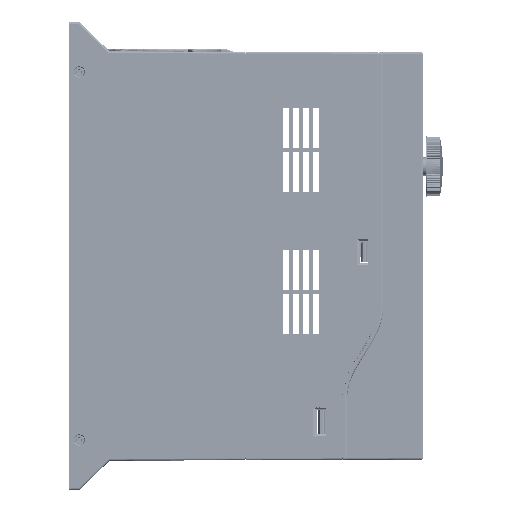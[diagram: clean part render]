
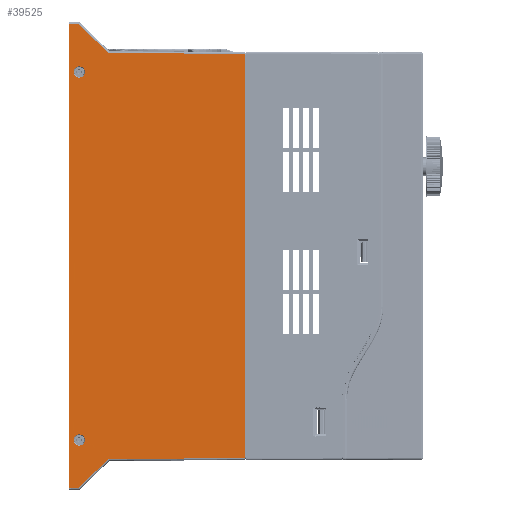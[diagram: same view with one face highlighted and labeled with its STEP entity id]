
A CAD part, front view. The second image highlights one B-rep face of the part: STEP entity #39525.
In plain terms, the highlighted planar face has unit normal (0.004, -1, 0).
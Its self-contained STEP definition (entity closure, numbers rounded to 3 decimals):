
#7047=CARTESIAN_POINT('',(-2.,-62.116,-101.116));
#7060=CARTESIAN_POINT('',(-2.,-62.116,101.116));
#7113=CARTESIAN_POINT('',(-87.795,-62.49,
92.));
#7114=CARTESIAN_POINT('',(-87.795,-62.49,
92.027));
#7115=CARTESIAN_POINT('',(-87.79,-62.49,
92.336));
#7116=CARTESIAN_POINT('',(-87.684,-62.49,
92.938));
#7117=CARTESIAN_POINT('',(-87.241,-62.488,
93.757));
#7118=CARTESIAN_POINT('',(-86.546,-62.485,
94.391));
#7119=CARTESIAN_POINT('',(-85.71,-62.481,
94.755));
#7120=CARTESIAN_POINT('',(-84.834,-62.477,
94.84));
#7121=CARTESIAN_POINT('',(-83.973,-62.474,
94.657));
#7122=CARTESIAN_POINT('',(-83.183,-62.47,
94.201));
#7123=CARTESIAN_POINT('',(-82.564,-62.468,
93.492));
#7124=CARTESIAN_POINT('',(-82.249,-62.466,
92.71));
#7125=CARTESIAN_POINT('',(-82.195,-62.466,
92.207));
#7126=CARTESIAN_POINT('',(-82.195,-62.466,
92.));
#7131=CARTESIAN_POINT('',(-82.195,-62.466,
92.));
#7132=CARTESIAN_POINT('',(-82.195,-62.466,
91.973));
#7133=CARTESIAN_POINT('',(-82.199,-62.466,
91.664));
#7134=CARTESIAN_POINT('',(-82.306,-62.466,
91.062));
#7135=CARTESIAN_POINT('',(-82.748,-62.468,
90.243));
#7136=CARTESIAN_POINT('',(-83.443,-62.471,
89.609));
#7137=CARTESIAN_POINT('',(-84.279,-62.475,
89.245));
#7138=CARTESIAN_POINT('',(-85.156,-62.479,
89.16));
#7139=CARTESIAN_POINT('',(-86.017,-62.483,
89.343));
#7140=CARTESIAN_POINT('',(-86.806,-62.486,
89.799));
#7141=CARTESIAN_POINT('',(-87.426,-62.489,
90.508));
#7142=CARTESIAN_POINT('',(-87.74,-62.49,
91.29));
#7143=CARTESIAN_POINT('',(-87.795,-62.49,
91.793));
#7144=CARTESIAN_POINT('',(-87.795,-62.49,
92.));
#7149=CARTESIAN_POINT('',(-82.195,-62.466,
-92.));
#7150=CARTESIAN_POINT('',(-82.195,-62.466,
-92.207));
#7151=CARTESIAN_POINT('',(-82.249,-62.466,
-92.71));
#7152=CARTESIAN_POINT('',(-82.564,-62.468,
-93.492));
#7153=CARTESIAN_POINT('',(-83.183,-62.47,
-94.201));
#7154=CARTESIAN_POINT('',(-83.973,-62.474,
-94.657));
#7155=CARTESIAN_POINT('',(-84.834,-62.477,
-94.84));
#7156=CARTESIAN_POINT('',(-85.71,-62.481,
-94.755));
#7157=CARTESIAN_POINT('',(-86.546,-62.485,
-94.391));
#7158=CARTESIAN_POINT('',(-87.241,-62.488,
-93.757));
#7159=CARTESIAN_POINT('',(-87.684,-62.49,
-92.938));
#7160=CARTESIAN_POINT('',(-87.79,-62.49,
-92.336));
#7161=CARTESIAN_POINT('',(-87.795,-62.49,
-92.027));
#7162=CARTESIAN_POINT('',(-87.795,-62.49,
-92.));
#7167=CARTESIAN_POINT('',(-87.795,-62.49,
-92.));
#7168=CARTESIAN_POINT('',(-87.795,-62.49,
-91.793));
#7169=CARTESIAN_POINT('',(-87.74,-62.49,
-91.29));
#7170=CARTESIAN_POINT('',(-87.426,-62.489,
-90.508));
#7171=CARTESIAN_POINT('',(-86.806,-62.486,
-89.799));
#7172=CARTESIAN_POINT('',(-86.017,-62.483,
-89.343));
#7173=CARTESIAN_POINT('',(-85.156,-62.479,
-89.16));
#7174=CARTESIAN_POINT('',(-84.279,-62.475,
-89.245));
#7175=CARTESIAN_POINT('',(-83.443,-62.471,
-89.609));
#7176=CARTESIAN_POINT('',(-82.748,-62.468,
-90.243));
#7177=CARTESIAN_POINT('',(-82.306,-62.466,
-91.062));
#7178=CARTESIAN_POINT('',(-82.199,-62.466,
-91.664));
#7179=CARTESIAN_POINT('',(-82.195,-62.466,
-91.973));
#7180=CARTESIAN_POINT('',(-82.195,-62.466,
-92.));
#7185=DIRECTION('',(-1.,-0.004,-0.004));
#7186=VECTOR('',#7185,68.312);
#7187=CARTESIAN_POINT('',(-2.,-62.116,-101.116));
#7188=LINE('',#7187,#7186);
#7192=DIRECTION('',(0.719,0.003,0.695));
#7193=VECTOR('',#7192,20.986);
#7194=CARTESIAN_POINT('',(-85.4,-62.48,-116.));
#7195=LINE('',#7194,#7193);
#7199=DIRECTION('',(1.,0.004,0.));
#7200=VECTOR('',#7199,4.6);
#7201=CARTESIAN_POINT('',(-90.,-62.5,-116.));
#7202=LINE('',#7201,#7200);
#7206=DIRECTION('',(0.,0.,1.));
#7207=VECTOR('',#7206,232.);
#7208=CARTESIAN_POINT('',(-90.,-62.5,-116.));
#7209=LINE('',#7208,#7207);
#7213=DIRECTION('',(-1.,-0.004,0.));
#7214=VECTOR('',#7213,4.6);
#7215=CARTESIAN_POINT('',(-85.4,-62.48,116.));
#7216=LINE('',#7215,#7214);
#7220=DIRECTION('',(-0.719,-0.003,0.695));
#7221=VECTOR('',#7220,20.986);
#7222=CARTESIAN_POINT('',(-70.311,-62.414,
101.414));
#7223=LINE('',#7222,#7221);
#7227=DIRECTION('',(-1.,-0.004,0.004));
#7228=VECTOR('',#7227,68.312);
#7229=CARTESIAN_POINT('',(-2.,-62.116,101.116));
#7230=LINE('',#7229,#7228);
#7234=DIRECTION('',(0.,0.,-1.));
#7235=VECTOR('',#7234,202.232);
#7236=CARTESIAN_POINT('',(-2.,-62.116,101.116));
#7237=LINE('',#7236,#7235);
#12034=CARTESIAN_POINT('',(-90.,-62.5,116.));
#12047=CARTESIAN_POINT('',(-90.,-62.5,-116.));
#32739=VERTEX_POINT('',#7113);
#32740=VERTEX_POINT('',#7126);
#32743=VERTEX_POINT('',#7149);
#32744=VERTEX_POINT('',#7162);
#33990=VERTEX_POINT('',#12034);
#33994=CARTESIAN_POINT('',(-85.4,-62.48,116.));
#33995=VERTEX_POINT('',#33994);
#34000=CARTESIAN_POINT('',(-70.311,-62.414,
101.414));
#34001=VERTEX_POINT('',#34000);
#34003=VERTEX_POINT('',#7060);
#34107=VERTEX_POINT('',#7047);
#34111=CARTESIAN_POINT('',(-70.311,-62.414,
-101.414));
#34112=VERTEX_POINT('',#34111);
#34113=CARTESIAN_POINT('',(-85.4,-62.48,-116.));
#34114=VERTEX_POINT('',#34113);
#34118=VERTEX_POINT('',#12047);
#39493=CARTESIAN_POINT('',(-90.,-62.5,120.362));
#39494=DIRECTION('',(0.004,-1.,0.));
#39495=DIRECTION('',(0.,0.,1.));
#39496=AXIS2_PLACEMENT_3D('',#39493,#39494,#39495);
#39497=PLANE('',#39496);
#39498=ORIENTED_EDGE('',*,*,#39473,.T.);
#39499=ORIENTED_EDGE('',*,*,#39483,.F.);
#39501=ORIENTED_EDGE('',*,*,#39500,.F.);
#39503=ORIENTED_EDGE('',*,*,#39502,.T.);
#39505=ORIENTED_EDGE('',*,*,#39504,.F.);
#39507=ORIENTED_EDGE('',*,*,#39506,.F.);
#39509=ORIENTED_EDGE('',*,*,#39508,.F.);
#39510=ORIENTED_EDGE('',*,*,#39421,.T.);
#39511=EDGE_LOOP('',(#39498,#39499,#39501,#39503,#39505,#39507,#39509,#39510));
#39512=FACE_OUTER_BOUND('',#39511,.F.);
#39514=ORIENTED_EDGE('',*,*,#39513,.F.);
#39516=ORIENTED_EDGE('',*,*,#39515,.F.);
#39517=EDGE_LOOP('',(#39514,#39516));
#39518=FACE_BOUND('',#39517,.F.);
#39520=ORIENTED_EDGE('',*,*,#39519,.F.);
#39522=ORIENTED_EDGE('',*,*,#39521,.F.);
#39523=EDGE_LOOP('',(#39520,#39522));
#39524=FACE_BOUND('',#39523,.F.);
#39525=ADVANCED_FACE('',(#39512,#39518,#39524),#39497,.T.);
#7127=B_SPLINE_CURVE_WITH_KNOTS('',3,(#7113,#7114,#7115,#7116,#7117,#7118,#7119,
#7120,#7121,#7122,#7123,#7124,#7125,#7126),.UNSPECIFIED.,.F.,.F.,(4,1,1,1,1,1,1,
1,1,1,1,4),(0.,0.01,0.112,0.213,
0.315,0.417,0.519,0.621,
0.723,0.825,0.927,1.),.UNSPECIFIED.);
#7145=B_SPLINE_CURVE_WITH_KNOTS('',3,(#7131,#7132,#7133,#7134,#7135,#7136,#7137,
#7138,#7139,#7140,#7141,#7142,#7143,#7144),.UNSPECIFIED.,.F.,.F.,(4,1,1,1,1,1,1,
1,1,1,1,4),(0.,0.01,0.112,0.213,
0.315,0.417,0.519,0.621,
0.723,0.825,0.927,1.),.UNSPECIFIED.);
#7163=B_SPLINE_CURVE_WITH_KNOTS('',3,(#7149,#7150,#7151,#7152,#7153,#7154,#7155,
#7156,#7157,#7158,#7159,#7160,#7161,#7162),.UNSPECIFIED.,.F.,.F.,(4,1,1,1,1,1,1,
1,1,1,1,4),(0.,0.073,0.175,0.277,
0.379,0.481,0.583,0.685,
0.787,0.888,0.99,1.),.UNSPECIFIED.);
#7181=B_SPLINE_CURVE_WITH_KNOTS('',3,(#7167,#7168,#7169,#7170,#7171,#7172,#7173,
#7174,#7175,#7176,#7177,#7178,#7179,#7180),.UNSPECIFIED.,.F.,.F.,(4,1,1,1,1,1,1,
1,1,1,1,4),(0.,0.073,0.175,0.277,
0.379,0.481,0.583,0.685,
0.787,0.888,0.99,1.),.UNSPECIFIED.);
#39421=EDGE_CURVE('',#34003,#34107,#7237,.T.);
#39473=EDGE_CURVE('',#34107,#34112,#7188,.T.);
#39483=EDGE_CURVE('',#34114,#34112,#7195,.T.);
#39500=EDGE_CURVE('',#34118,#34114,#7202,.T.);
#39502=EDGE_CURVE('',#34118,#33990,#7209,.T.);
#39504=EDGE_CURVE('',#33995,#33990,#7216,.T.);
#39506=EDGE_CURVE('',#34001,#33995,#7223,.T.);
#39508=EDGE_CURVE('',#34003,#34001,#7230,.T.);
#39513=EDGE_CURVE('',#32743,#32744,#7163,.T.);
#39515=EDGE_CURVE('',#32744,#32743,#7181,.T.);
#39519=EDGE_CURVE('',#32739,#32740,#7127,.T.);
#39521=EDGE_CURVE('',#32740,#32739,#7145,.T.);
